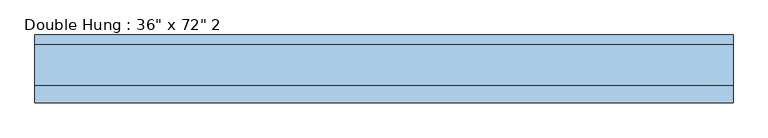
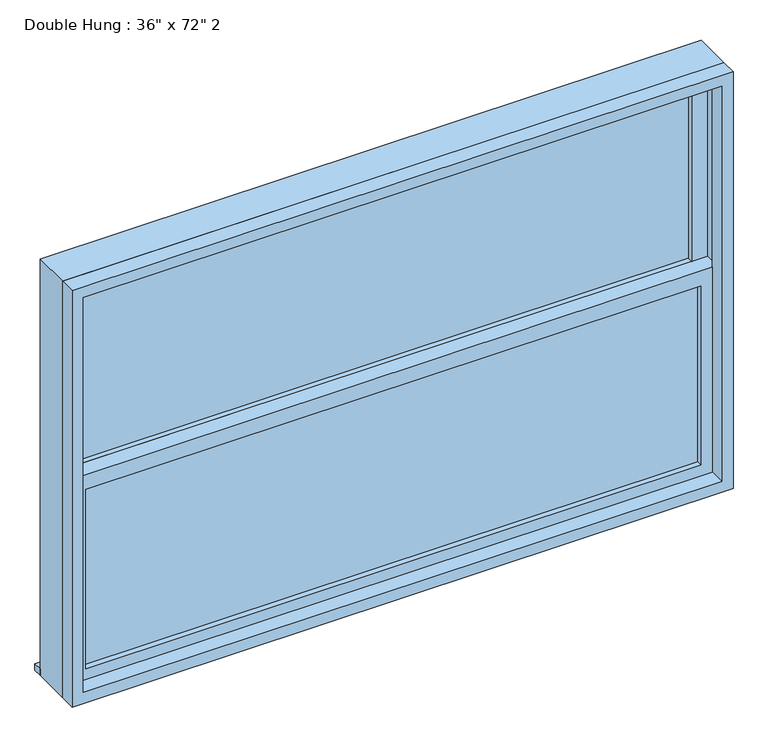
"""IFC4 building model written with IfcOpenShell, lengths in millimetres: window geometry."""

from ifc_helpers import new_model, si_unit, frame, origin, place, context, project, spatial, polyline, outline, extrude, source, transform, mapped, element, save


def window_a0d1c1f7(model_context):
    return source(origin(), model_context, "Body", "SweptSolid", [
        extrude(outline(polyline([(-850.9, -3.175), (850.9, -3.175), (850.9, -15.875), (-850.9, -15.875), (-850.9, -3.175)])), frame((0.0, 0.0, 977.9), z_axis=(0.0, 0.0, 1.0), x_axis=(1.0, 0.0, 0.0)), (0.0, 0.0, 1.0), 523.875),
        extrude(outline(polyline([(1546.225, -895.35), (933.45, -895.35), (933.45, 895.35), (1546.225, 895.35), (1546.225, -895.35)]), holes=[polyline([(1501.775, -850.9), (1501.775, 850.9), (977.9, 850.9), (977.9, -850.9), (1501.775, -850.9)])]), frame((0.0, -31.75, 0.0), z_axis=(0.0, 1.0, 0.0), x_axis=(0.0, 0.0, 1.0)), (0.0, 0.0, 1.0), 44.45),
        extrude(outline(polyline([(-914.4, 101.6), (914.4, 101.6), (914.4, 76.2), (-914.4, 76.2), (-914.4, 101.6)])), frame((0.0, 0.0, 914.4), z_axis=(0.0, 0.0, 1.0), x_axis=(1.0, 0.0, 0.0)), (0.0, 0.0, 1.0), 19.05),
        extrude(outline(polyline([(850.9, 28.575), (-850.9, 28.575), (-850.9, 41.275), (850.9, 41.275), (850.9, 28.575)])), frame((0.0, 0.0, 1546.225), z_axis=(0.0, 0.0, 1.0), x_axis=(1.0, 0.0, 0.0)), (0.0, 0.0, 1.0), 523.875),
        extrude(outline(polyline([(2114.55, -895.35), (1501.775, -895.35), (1501.775, 895.35), (2114.55, 895.35), (2114.55, -895.35)]), holes=[polyline([(2070.1, -850.9), (2070.1, 850.9), (1546.225, 850.9), (1546.225, -850.9), (2070.1, -850.9)])]), frame((0.0, 12.7, 0.0), z_axis=(0.0, 1.0, 0.0), x_axis=(0.0, 0.0, 1.0)), (0.0, 0.0, 1.0), 44.45),
        extrude(outline(polyline([(2133.6, -914.4), (914.4, -914.4), (914.4, 914.4), (2133.6, 914.4), (2133.6, -914.4)]), holes=[polyline([(2101.85, -882.65), (2101.85, 882.65), (946.15, 882.65), (946.15, -882.65), (2101.85, -882.65)])]), frame((0.0, -76.2, 0.0), z_axis=(0.0, 1.0, 0.0), x_axis=(0.0, 0.0, 1.0)), (0.0, 0.0, 1.0), 44.45),
        extrude(outline(polyline([(2133.6, 914.4), (2133.6, -914.4), (914.4, -914.4), (914.4, 914.4), (2133.6, 914.4)]), holes=[polyline([(2114.55, 895.35), (933.45, 895.35), (933.45, -895.35), (2114.55, -895.35), (2114.55, 895.35)])]), frame((0.0, -31.75, 0.0), z_axis=(0.0, 1.0, 0.0), x_axis=(0.0, 0.0, 1.0)), (0.0, 0.0, 1.0), 107.95),
    ])


if __name__ == "__main__":
    model = new_model("IFC4")
    model_context = context("Model", 3, world=origin())
    ifc_project = project(units=[si_unit("LENGTHUNIT", "METRE", prefix="MILLI")], contexts=[model_context])
    site = spatial("IfcSite", under=ifc_project)
    building = spatial("IfcBuilding", under=site)
    placement = place(None, origin())
    window_shape = window_a0d1c1f7(model_context)
    element("IfcWindow", 1, ObjectType="Double Hung : 36\" x 72\" 2", at=placement, inside=building, context=model_context, shape_type="MappedRepresentation", body=[
        mapped(window_shape, transform((0.0, 0.0, 0.0), x_axis=(1.0, 0.0, 0.0), y_axis=(0.0, 1.0, 0.0), z_axis=(0.0, 0.0, 1.0))),
    ])
    save(model, "model.ifc")
